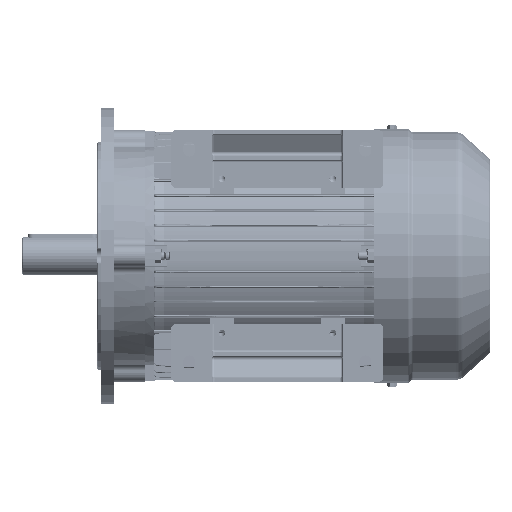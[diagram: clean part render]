
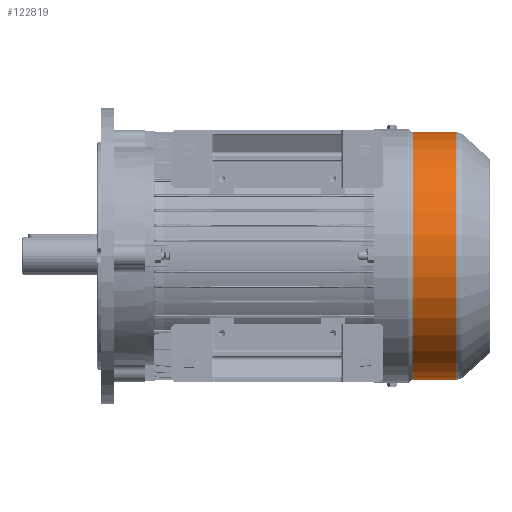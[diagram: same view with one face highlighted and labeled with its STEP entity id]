
A CAD part, front view. The second image highlights one B-rep face of the part: STEP entity #122819.
In plain terms, the highlighted cylindrical face has radius 125 mm (diameter 250 mm), a partial arc.
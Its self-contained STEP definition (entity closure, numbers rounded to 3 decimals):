
#453 = ORIENTED_EDGE ( 'NONE', *, *, #791, .T. ) ;
#791 = EDGE_CURVE ( 'NONE', #103448, #82552, #82241, .T. ) ;
#6288 = EDGE_CURVE ( 'NONE', #96428, #155778, #145711, .T. ) ;
#9779 = LINE ( 'NONE', #74926, #68302 ) ;
#15663 = EDGE_CURVE ( 'NONE', #103448, #155778, #9779, .T. ) ;
#17458 = CARTESIAN_POINT ( 'NONE',  ( -39.028, 0., 125. ) ) ;
#31659 = DIRECTION ( 'NONE',  ( -1., 0., 0. ) ) ;
#42592 = CARTESIAN_POINT ( 'NONE',  ( -114., 0., 0. ) ) ;
#43885 = EDGE_CURVE ( 'NONE', #82552, #96428, #139142, .T. ) ;
#54916 = DIRECTION ( 'NONE',  ( 0., 0., -1. ) ) ;
#56049 = CARTESIAN_POINT ( 'NONE',  ( -83.139, 0., 125. ) ) ;
#65452 = DIRECTION ( 'NONE',  ( -1., 0., 0. ) ) ;
#68302 = VECTOR ( 'NONE', #101720, 1000. ) ;
#74926 = CARTESIAN_POINT ( 'NONE',  ( -114., 0., -125. ) ) ;
#78396 = DIRECTION ( 'NONE',  ( 1., 0., 0. ) ) ;
#80466 = ORIENTED_EDGE ( 'NONE', *, *, #6288, .T. ) ;
#82241 = CIRCLE ( 'NONE', #90603, 125. ) ;
#82552 = VERTEX_POINT ( 'NONE', #17458 ) ;
#89575 = CARTESIAN_POINT ( 'NONE',  ( -39.028, 0., 0. ) ) ;
#90603 = AXIS2_PLACEMENT_3D ( 'NONE', #89575, #152577, #154205 ) ;
#91326 = CARTESIAN_POINT ( 'NONE',  ( -39.028, 0., -125. ) ) ;
#96428 = VERTEX_POINT ( 'NONE', #56049 ) ;
#101720 = DIRECTION ( 'NONE',  ( -1., 0., 0. ) ) ;
#103448 = VERTEX_POINT ( 'NONE', #91326 ) ;
#103704 = CARTESIAN_POINT ( 'NONE',  ( -114., 0., 125. ) ) ;
#107064 = EDGE_LOOP ( 'NONE', ( #127359, #453, #134444, #80466 ) ) ;
#107723 = VECTOR ( 'NONE', #65452, 1000. ) ;
#112775 = CYLINDRICAL_SURFACE ( 'NONE', #130196, 125. ) ;
#115298 = AXIS2_PLACEMENT_3D ( 'NONE', #129325, #78396, #54916 ) ;
#122819 = ADVANCED_FACE ( 'NONE', ( #146610 ), #112775, .T. ) ;
#127359 = ORIENTED_EDGE ( 'NONE', *, *, #15663, .F. ) ;
#129325 = CARTESIAN_POINT ( 'NONE',  ( -83.139, 0., 0. ) ) ;
#130196 = AXIS2_PLACEMENT_3D ( 'NONE', #42592, #31659, #144336 ) ;
#134444 = ORIENTED_EDGE ( 'NONE', *, *, #43885, .T. ) ;
#135984 = CARTESIAN_POINT ( 'NONE',  ( -83.139, 0., -125. ) ) ;
#139142 = LINE ( 'NONE', #103704, #107723 ) ;
#144336 = DIRECTION ( 'NONE',  ( 0., 0., 1. ) ) ;
#145711 = CIRCLE ( 'NONE', #115298, 125. ) ;
#146610 = FACE_OUTER_BOUND ( 'NONE', #107064, .T. ) ;
#152577 = DIRECTION ( 'NONE',  ( -1., 0., 0. ) ) ;
#154205 = DIRECTION ( 'NONE',  ( 0., 0., 1. ) ) ;
#155778 = VERTEX_POINT ( 'NONE', #135984 ) ;
